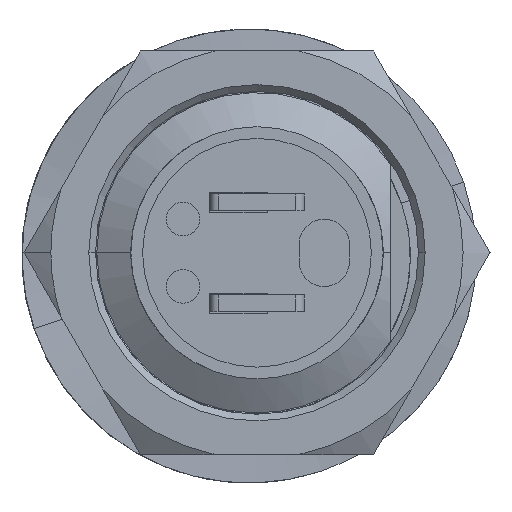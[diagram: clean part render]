
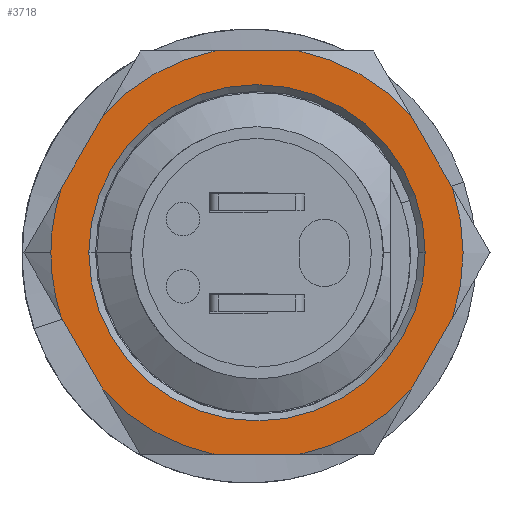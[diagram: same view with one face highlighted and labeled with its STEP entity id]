
A CAD part, front view. The second image highlights one B-rep face of the part: STEP entity #3718.
In plain terms, the highlighted planar face has unit normal (0, -1, 0).
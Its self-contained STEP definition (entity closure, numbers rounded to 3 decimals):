
#56 = VERTEX_POINT ( 'NONE', #4131 ) ;
#78 = CARTESIAN_POINT ( 'NONE',  ( 1.851, -3.95, 1.92 ) ) ;
#512 = AXIS2_PLACEMENT_3D ( 'NONE', #3821, #12613, #5111 ) ;
#588 = VECTOR ( 'NONE', #14567, 1000. ) ;
#703 = VECTOR ( 'NONE', #1719, 1000. ) ;
#730 = CARTESIAN_POINT ( 'NONE',  ( -0.505, -3.95, 6. ) ) ;
#751 = AXIS2_PLACEMENT_3D ( 'NONE', #12308, #4810, #13582 ) ;
#795 = EDGE_CURVE ( 'NONE', #7028, #1305, #15751, .T. ) ;
#873 = EDGE_LOOP ( 'NONE', ( #6583, #924 ) ) ;
#924 = ORIENTED_EDGE ( 'NONE', *, *, #7420, .T. ) ;
#965 = AXIS2_PLACEMENT_3D ( 'NONE', #16125, #8616, #1061 ) ;
#1061 = DIRECTION ( 'NONE',  ( 1., 0., 0. ) ) ;
#1125 = VECTOR ( 'NONE', #13379, 1000. ) ;
#1200 = DIRECTION ( 'NONE',  ( -1., 0., 0. ) ) ;
#1250 = DIRECTION ( 'NONE',  ( -0.5, 0., 0.866 ) ) ;
#1290 = EDGE_LOOP ( 'NONE', ( #10885, #10147, #8024, #7802, #3384, #2345, #11540, #9906, #4754, #1491, #2375, #2416, #6479 ) ) ;
#1305 = VERTEX_POINT ( 'NONE', #8585 ) ;
#1472 = AXIS2_PLACEMENT_3D ( 'NONE', #14606, #9639, #2103 ) ;
#1491 = ORIENTED_EDGE ( 'NONE', *, *, #3870, .F. ) ;
#1719 = DIRECTION ( 'NONE',  ( 0.5, 0., -0.866 ) ) ;
#1899 = CIRCLE ( 'NONE', #8858, 6.128 ) ;
#1929 = VERTEX_POINT ( 'NONE', #78 ) ;
#2103 = DIRECTION ( 'NONE',  ( 1., 0., 0. ) ) ;
#2274 = EDGE_CURVE ( 'NONE', #6023, #11950, #8801, .T. ) ;
#2295 = CARTESIAN_POINT ( 'NONE',  ( 0.604, -3.95, -4.08 ) ) ;
#2345 = ORIENTED_EDGE ( 'NONE', *, *, #8694, .T. ) ;
#2375 = ORIENTED_EDGE ( 'NONE', *, *, #2835, .T. ) ;
#2416 = ORIENTED_EDGE ( 'NONE', *, *, #11589, .F. ) ;
#2680 = DIRECTION ( 'NONE',  ( 0., 1., 0. ) ) ;
#2771 = EDGE_CURVE ( 'NONE', #1929, #5641, #1899, .T. ) ;
#2835 = EDGE_CURVE ( 'NONE', #12124, #12972, #10760, .T. ) ;
#3217 = VERTEX_POINT ( 'NONE', #8219 ) ;
#3228 = AXIS2_PLACEMENT_3D ( 'NONE', #6047, #14792, #7312 ) ;
#3384 = ORIENTED_EDGE ( 'NONE', *, *, #14493, .F. ) ;
#3442 = LINE ( 'NONE', #15032, #6416 ) ;
#3512 = VERTEX_POINT ( 'NONE', #3787 ) ;
#3545 = CARTESIAN_POINT ( 'NONE',  ( -3.969, -3.95, 0. ) ) ;
#3718 = ADVANCED_FACE ( 'NONE', ( #5264, #4864 ), #8369, .T. ) ;
#3787 = CARTESIAN_POINT ( 'NONE',  ( -9.788, -3.95, 1.92 ) ) ;
#3821 = CARTESIAN_POINT ( 'NONE',  ( -3.969, -3.95, 0. ) ) ;
#3870 = EDGE_CURVE ( 'NONE', #12124, #9096, #10355, .T. ) ;
#3985 = AXIS2_PLACEMENT_3D ( 'NONE', #4448, #13219, #5729 ) ;
#4039 = VERTEX_POINT ( 'NONE', #2295 ) ;
#4131 = CARTESIAN_POINT ( 'NONE',  ( -8.541, -3.95, 4.08 ) ) ;
#4448 = CARTESIAN_POINT ( 'NONE',  ( -3.969, -3.95, 0. ) ) ;
#4754 = ORIENTED_EDGE ( 'NONE', *, *, #13237, .F. ) ;
#4810 = DIRECTION ( 'NONE',  ( 0., 1., 0. ) ) ;
#4819 = DIRECTION ( 'NONE',  ( -1., 0., 0. ) ) ;
#4864 = FACE_OUTER_BOUND ( 'NONE', #1290, .T. ) ;
#4886 = AXIS2_PLACEMENT_3D ( 'NONE', #16269, #8751, #1200 ) ;
#4907 = CIRCLE ( 'NONE', #3985, 6.128 ) ;
#5003 = CARTESIAN_POINT ( 'NONE',  ( -7.433, -3.95, -6. ) ) ;
#5111 = DIRECTION ( 'NONE',  ( 1., 0., 0. ) ) ;
#5141 = CARTESIAN_POINT ( 'NONE',  ( -8.541, -3.95, -4.08 ) ) ;
#5264 = FACE_BOUND ( 'NONE', #873, .T. ) ;
#5555 = DIRECTION ( 'NONE',  ( 0., 1., 0. ) ) ;
#5641 = VERTEX_POINT ( 'NONE', #14762 ) ;
#5729 = DIRECTION ( 'NONE',  ( -1., 0., 0. ) ) ;
#5733 = CARTESIAN_POINT ( 'NONE',  ( -5.216, -3.95, -6. ) ) ;
#5785 = EDGE_CURVE ( 'NONE', #56, #3512, #13882, .T. ) ;
#6023 = VERTEX_POINT ( 'NONE', #5733 ) ;
#6047 = CARTESIAN_POINT ( 'NONE',  ( -3.969, -3.95, 0. ) ) ;
#6324 = CARTESIAN_POINT ( 'NONE',  ( 1.031, -3.95, 0. ) ) ;
#6416 = VECTOR ( 'NONE', #1250, 1000. ) ;
#6479 = ORIENTED_EDGE ( 'NONE', *, *, #2274, .T. ) ;
#6583 = ORIENTED_EDGE ( 'NONE', *, *, #795, .T. ) ;
#6651 = CARTESIAN_POINT ( 'NONE',  ( -10.897, -3.95, 0. ) ) ;
#7028 = VERTEX_POINT ( 'NONE', #6324 ) ;
#7206 = VECTOR ( 'NONE', #10071, 1000. ) ;
#7312 = DIRECTION ( 'NONE',  ( -1., 0., 0. ) ) ;
#7420 = EDGE_CURVE ( 'NONE', #1305, #7028, #9523, .T. ) ;
#7522 = DIRECTION ( 'NONE',  ( 1., 0., 0. ) ) ;
#7802 = ORIENTED_EDGE ( 'NONE', *, *, #14587, .T. ) ;
#8024 = ORIENTED_EDGE ( 'NONE', *, *, #2771, .F. ) ;
#8219 = CARTESIAN_POINT ( 'NONE',  ( -5.216, -3.95, 6. ) ) ;
#8369 = PLANE ( 'NONE',  #1472 ) ;
#8442 = CARTESIAN_POINT ( 'NONE',  ( -9.788, -3.95, -1.92 ) ) ;
#8585 = CARTESIAN_POINT ( 'NONE',  ( -8.969, -3.95, 0. ) ) ;
#8616 = DIRECTION ( 'NONE',  ( 0., 1., 0. ) ) ;
#8626 = EDGE_CURVE ( 'NONE', #4039, #11950, #15532, .T. ) ;
#8694 = EDGE_CURVE ( 'NONE', #10761, #3217, #10641, .T. ) ;
#8751 = DIRECTION ( 'NONE',  ( 0., 1., 0. ) ) ;
#8791 = CARTESIAN_POINT ( 'NONE',  ( -7.433, -3.95, 6. ) ) ;
#8801 = LINE ( 'NONE', #5003, #12548 ) ;
#8858 = AXIS2_PLACEMENT_3D ( 'NONE', #10219, #2680, #11460 ) ;
#9096 = VERTEX_POINT ( 'NONE', #12182 ) ;
#9523 = CIRCLE ( 'NONE', #965, 5. ) ;
#9639 = DIRECTION ( 'NONE',  ( 0., -1., 0. ) ) ;
#9712 = CIRCLE ( 'NONE', #11077, 6.128 ) ;
#9906 = ORIENTED_EDGE ( 'NONE', *, *, #5785, .T. ) ;
#10071 = DIRECTION ( 'NONE',  ( -0.5, 0., -0.866 ) ) ;
#10147 = ORIENTED_EDGE ( 'NONE', *, *, #13309, .T. ) ;
#10219 = CARTESIAN_POINT ( 'NONE',  ( -3.969, -3.95, 0. ) ) ;
#10355 = CIRCLE ( 'NONE', #4886, 6.128 ) ;
#10641 = LINE ( 'NONE', #730, #588 ) ;
#10760 = LINE ( 'NONE', #6651, #703 ) ;
#10761 = VERTEX_POINT ( 'NONE', #13390 ) ;
#10787 = LINE ( 'NONE', #12117, #1125 ) ;
#10885 = ORIENTED_EDGE ( 'NONE', *, *, #8626, .F. ) ;
#11077 = AXIS2_PLACEMENT_3D ( 'NONE', #3545, #12321, #4819 ) ;
#11460 = DIRECTION ( 'NONE',  ( -1., 0., 0. ) ) ;
#11540 = ORIENTED_EDGE ( 'NONE', *, *, #15686, .F. ) ;
#11557 = CIRCLE ( 'NONE', #3228, 6.128 ) ;
#11589 = EDGE_CURVE ( 'NONE', #6023, #12972, #11557, .T. ) ;
#11950 = VERTEX_POINT ( 'NONE', #14104 ) ;
#12117 = CARTESIAN_POINT ( 'NONE',  ( -0.505, -3.95, -6. ) ) ;
#12124 = VERTEX_POINT ( 'NONE', #8442 ) ;
#12126 = CIRCLE ( 'NONE', #751, 6.128 ) ;
#12150 = AXIS2_PLACEMENT_3D ( 'NONE', #13051, #5555, #14307 ) ;
#12182 = CARTESIAN_POINT ( 'NONE',  ( -10.097, -3.95, 0. ) ) ;
#12308 = CARTESIAN_POINT ( 'NONE',  ( -3.969, -3.95, 0. ) ) ;
#12321 = DIRECTION ( 'NONE',  ( 0., 1., 0. ) ) ;
#12548 = VECTOR ( 'NONE', #7522, 1000. ) ;
#12613 = DIRECTION ( 'NONE',  ( 0., 1., 0. ) ) ;
#12972 = VERTEX_POINT ( 'NONE', #5141 ) ;
#13051 = CARTESIAN_POINT ( 'NONE',  ( -3.969, -3.95, 0. ) ) ;
#13219 = DIRECTION ( 'NONE',  ( 0., 1., 0. ) ) ;
#13237 = EDGE_CURVE ( 'NONE', #9096, #3512, #4907, .T. ) ;
#13309 = EDGE_CURVE ( 'NONE', #4039, #5641, #10787, .T. ) ;
#13379 = DIRECTION ( 'NONE',  ( 0.5, 0., 0.866 ) ) ;
#13390 = CARTESIAN_POINT ( 'NONE',  ( -2.722, -3.95, 6. ) ) ;
#13505 = VERTEX_POINT ( 'NONE', #13879 ) ;
#13582 = DIRECTION ( 'NONE',  ( -1., 0., 0. ) ) ;
#13879 = CARTESIAN_POINT ( 'NONE',  ( 0.604, -3.95, 4.08 ) ) ;
#13882 = LINE ( 'NONE', #8791, #7206 ) ;
#14104 = CARTESIAN_POINT ( 'NONE',  ( -2.722, -3.95, -6. ) ) ;
#14307 = DIRECTION ( 'NONE',  ( -1., 0., 0. ) ) ;
#14493 = EDGE_CURVE ( 'NONE', #10761, #13505, #12126, .T. ) ;
#14567 = DIRECTION ( 'NONE',  ( -1., 0., 0. ) ) ;
#14587 = EDGE_CURVE ( 'NONE', #1929, #13505, #3442, .T. ) ;
#14606 = CARTESIAN_POINT ( 'NONE',  ( 2.959, -3.95, 0. ) ) ;
#14762 = CARTESIAN_POINT ( 'NONE',  ( 1.851, -3.95, -1.92 ) ) ;
#14792 = DIRECTION ( 'NONE',  ( 0., 1., 0. ) ) ;
#15032 = CARTESIAN_POINT ( 'NONE',  ( 2.959, -3.95, 0. ) ) ;
#15532 = CIRCLE ( 'NONE', #12150, 6.128 ) ;
#15686 = EDGE_CURVE ( 'NONE', #56, #3217, #9712, .T. ) ;
#15751 = CIRCLE ( 'NONE', #512, 5. ) ;
#16125 = CARTESIAN_POINT ( 'NONE',  ( -3.969, -3.95, 0. ) ) ;
#16269 = CARTESIAN_POINT ( 'NONE',  ( -3.969, -3.95, 0. ) ) ;
